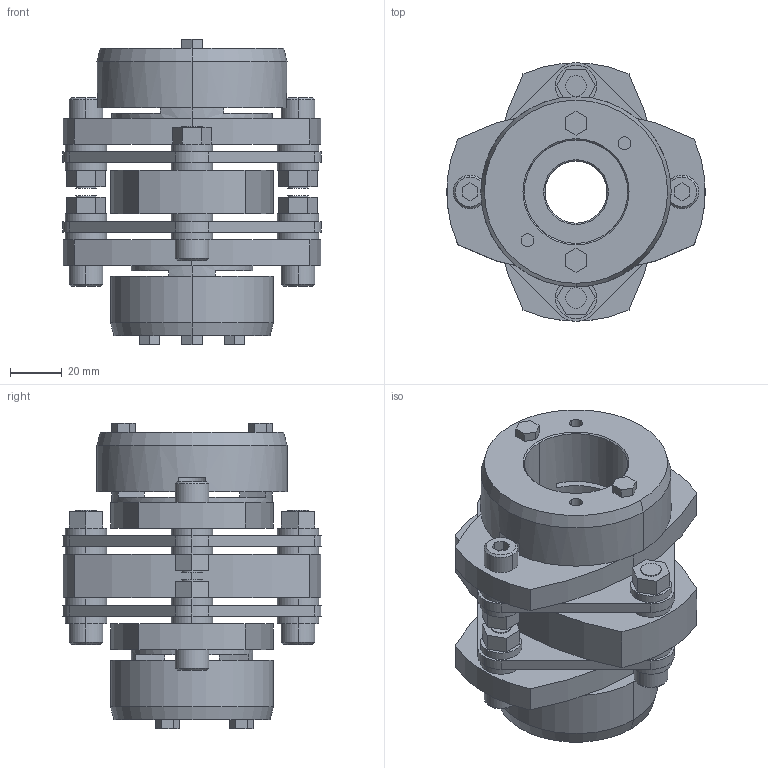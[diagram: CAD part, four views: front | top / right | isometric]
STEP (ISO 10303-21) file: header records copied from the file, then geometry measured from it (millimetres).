
FILE_DESCRIPTION((''),'2;1');
FILE_NAME('LCD-100T7-24×40.stp','2015-11-02T07:24:35',(''),(''),'AutoCAD STEP 2000i','AutoCAD 2000i',', , ');
FILE_SCHEMA(('CONFIG_CONTROL_DESIGN'));
Length unit declared in the file: millimetre
Products named in the file (10): LCD-100T7-25×38; 忣兜1; LC100T7-T038; LC100T7-T035; LC100T7-T030; LC100T7-T025-1; LC100T7-T025; LC100T7-T022-1; LC100T7-T022; LCD100-ITA
Assembly tree (9 placements, depth 2):
  LCD-100T7-25×38
    忣兜1
    LC100T7-T038
    LC100T7-T035
    LC100T7-T030
    LC100T7-T025-1
    LC100T7-T025
    LC100T7-T022-1
    LC100T7-T022
    LCD100-ITA
Bounding box: 100 x 99.93 x 118 mm (x, y, z)
Volume: 350529.1 mm3; surface area: 90451.1 mm2
Topology: 1 solids, 1 shells, 317 faces, 774 edges, 508 vertices
Faces by surface type: plane 171, cylinder 122, cone 24
Entity records: 9637 total; most frequent: DIRECTION 1716, CARTESIAN_POINT 1609, ORIENTED_EDGE 1548, EDGE_CURVE 774, AXIS2_PLACEMENT_3D 615, VERTEX_POINT 508, VECTOR 486, LINE 486
